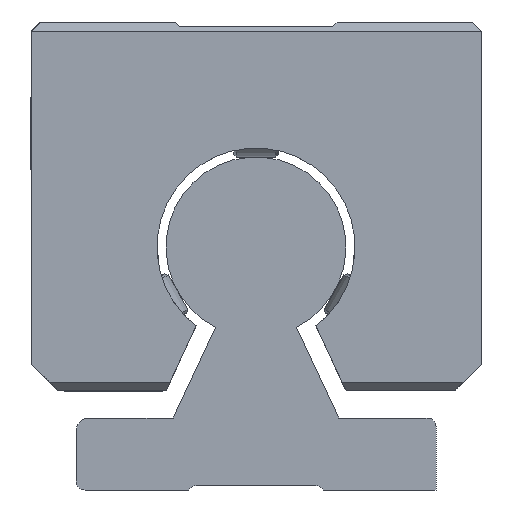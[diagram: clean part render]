
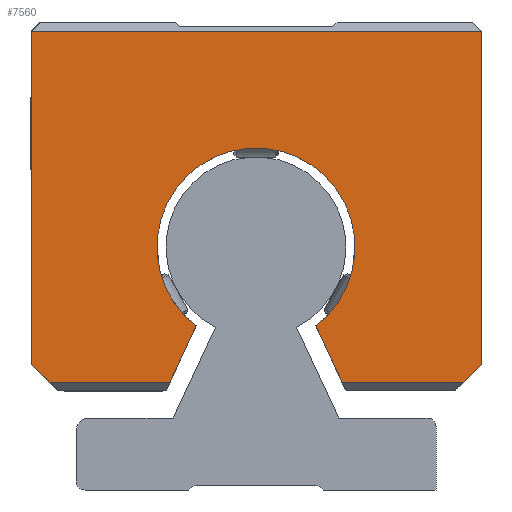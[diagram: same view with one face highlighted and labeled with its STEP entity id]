
A CAD part, left-side view. The second image highlights one B-rep face of the part: STEP entity #7560.
In plain terms, the highlighted planar face has unit normal (-1, 0, 0).
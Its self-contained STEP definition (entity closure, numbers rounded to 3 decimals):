
#6132=CARTESIAN_POINT('',(276.861,-25.,51.));
#6133=VERTEX_POINT('',#6132);
#6142=CARTESIAN_POINT('',(276.861,-25.,14.));
#6143=VERTEX_POINT('',#6142);
#6144=CARTESIAN_POINT('',(276.861,-25.,51.));
#6145=DIRECTION('',(0.0,0.0,-1.0));
#6146=VECTOR('',#6145,37.);
#6147=LINE('',#6144,#6146);
#6148=EDGE_CURVE('',#6133,#6143,#6147,.T.);
#6363=CARTESIAN_POINT('',(276.861,-6.632,18.224));
#6364=VERTEX_POINT('',#6363);
#6371=CARTESIAN_POINT('',(276.861,6.632,18.224));
#6372=VERTEX_POINT('',#6371);
#6373=CARTESIAN_POINT('',(276.861,0.,27.0));
#6374=DIRECTION('',(-1.0,0.0,0.0));
#6375=DIRECTION('',(0.0,-1.0,0.0));
#6376=AXIS2_PLACEMENT_3D('',#6373,#6374,#6375);
#6377=CIRCLE('',#6376,11.0);
#6378=EDGE_CURVE('',#6364,#6372,#6377,.T.);
#7188=CARTESIAN_POINT('',(276.861,25.,51.));
#7189=VERTEX_POINT('',#7188);
#7196=CARTESIAN_POINT('',(276.861,25.,51.));
#7197=DIRECTION('',(0.0,-1.0,0.0));
#7198=VECTOR('',#7197,50.0);
#7199=LINE('',#7196,#7198);
#7200=EDGE_CURVE('',#7189,#6133,#7199,.T.);
#7210=CARTESIAN_POINT('',(276.861,23.,12.));
#7211=VERTEX_POINT('',#7210);
#7228=CARTESIAN_POINT('',(276.861,9.534,12.));
#7229=VERTEX_POINT('',#7228);
#7236=CARTESIAN_POINT('',(276.861,9.534,12.));
#7237=DIRECTION('',(0.0,1.0,0.0));
#7238=VECTOR('',#7237,13.466);
#7239=LINE('',#7236,#7238);
#7240=EDGE_CURVE('',#7229,#7211,#7239,.T.);
#7299=CARTESIAN_POINT('',(276.861,25.,14.));
#7300=VERTEX_POINT('',#7299);
#7301=CARTESIAN_POINT('',(276.861,23.,12.));
#7302=DIRECTION('',(0.0,0.707,0.707));
#7303=VECTOR('',#7302,2.828);
#7304=LINE('',#7301,#7303);
#7305=EDGE_CURVE('',#7211,#7300,#7304,.T.);
#7486=CARTESIAN_POINT('',(276.861,-23.,12.));
#7487=VERTEX_POINT('',#7486);
#7488=CARTESIAN_POINT('',(276.861,-25.,14.));
#7489=DIRECTION('',(0.0,0.707,-0.707));
#7490=VECTOR('',#7489,2.828);
#7491=LINE('',#7488,#7490);
#7492=EDGE_CURVE('',#6143,#7487,#7491,.T.);
#7510=CARTESIAN_POINT('',(276.861,-9.534,12.));
#7511=VERTEX_POINT('',#7510);
#7512=CARTESIAN_POINT('',(276.861,-23.,12.));
#7513=DIRECTION('',(0.0,1.0,0.0));
#7514=VECTOR('',#7513,13.466);
#7515=LINE('',#7512,#7514);
#7516=EDGE_CURVE('',#7487,#7511,#7515,.T.);
#7528=CARTESIAN_POINT('',(276.861,-17.,51.75));
#7529=DIRECTION('',(1.0,0.0,0.0));
#7530=DIRECTION('',(0.0,0.0,-1.0));
#7531=AXIS2_PLACEMENT_3D('',#7528,#7529,#7530);
#7532=PLANE('',#7531);
#7533=ORIENTED_EDGE('',*,*,#7240,.F.);
#7534=CARTESIAN_POINT('',(276.861,6.632,18.224));
#7535=DIRECTION('',(0.0,0.423,-0.906));
#7536=VECTOR('',#7535,6.867);
#7537=LINE('',#7534,#7536);
#7538=EDGE_CURVE('',#6372,#7229,#7537,.T.);
#7539=ORIENTED_EDGE('',*,*,#7538,.F.);
#7540=ORIENTED_EDGE('',*,*,#6378,.F.);
#7541=CARTESIAN_POINT('',(276.861,-9.534,12.));
#7542=DIRECTION('',(0.0,0.423,0.906));
#7543=VECTOR('',#7542,6.867);
#7544=LINE('',#7541,#7543);
#7545=EDGE_CURVE('',#7511,#6364,#7544,.T.);
#7546=ORIENTED_EDGE('',*,*,#7545,.F.);
#7547=ORIENTED_EDGE('',*,*,#7516,.F.);
#7548=ORIENTED_EDGE('',*,*,#7492,.F.);
#7549=ORIENTED_EDGE('',*,*,#6148,.F.);
#7550=ORIENTED_EDGE('',*,*,#7200,.F.);
#7551=CARTESIAN_POINT('',(276.861,25.,14.));
#7552=DIRECTION('',(0.0,0.0,1.0));
#7553=VECTOR('',#7552,37.);
#7554=LINE('',#7551,#7553);
#7555=EDGE_CURVE('',#7300,#7189,#7554,.T.);
#7556=ORIENTED_EDGE('',*,*,#7555,.F.);
#7557=ORIENTED_EDGE('',*,*,#7305,.F.);
#7558=EDGE_LOOP('',(#7533,#7539,#7540,#7546,#7547,#7548,#7549,#7550,#7556,#7557));
#7559=FACE_OUTER_BOUND('',#7558,.T.);
#7560=ADVANCED_FACE('',(#7559),#7532,.F.);
